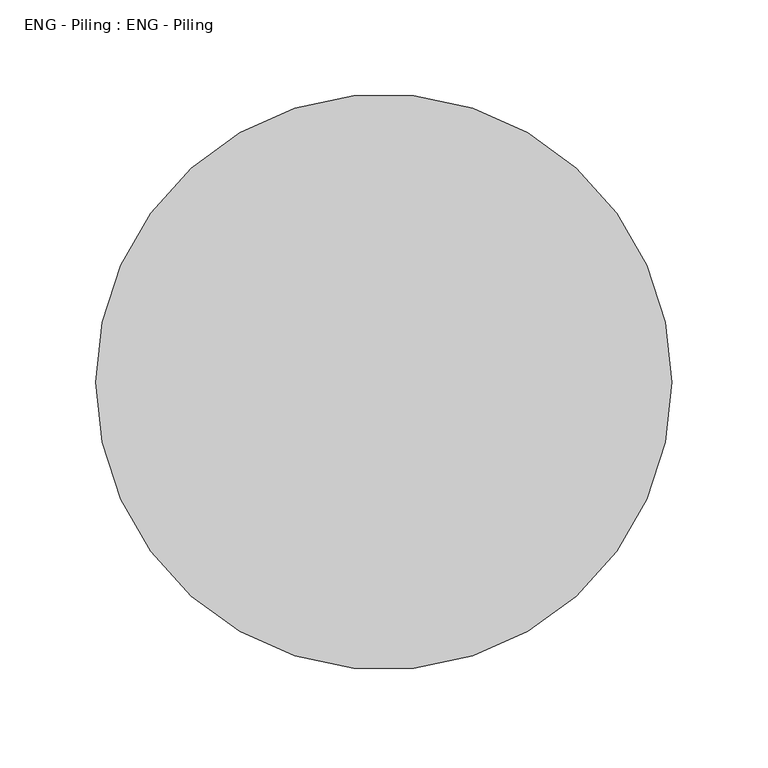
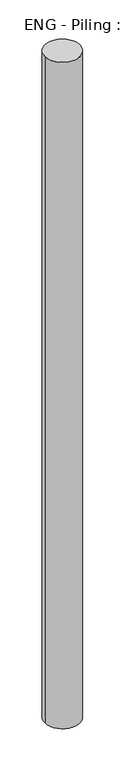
"""IFC4 building model written with IfcOpenShell, lengths in millimetres: column geometry, ENG - Piling : ENG - Piling."""

from ifc_helpers import new_model, si_unit, point, frame, origin, origin_2d, place, context, project, spatial, circle_curve, trimmed, segment, composite_curve, outline, extrude, source, transform, mapped, element, save


def eng_piling_eng_piling_70ba4476(model_context):
    return source(origin(), model_context, "Body", "SweptSolid", [
        extrude(outline(composite_curve([segment(trimmed(circle_curve(origin_2d(), 150.0), [point((-150.0, 0.0))], [point((150.0, 0.0))], False, "CARTESIAN"), True, "CONTINUOUS"), segment(trimmed(circle_curve(origin_2d(), 150.0), [point((150.0, 0.0))], [point((-150.0, 0.0))], False, "CARTESIAN"), True, "CONTINUOUS")], self_intersect=False)), frame((0.0, 0.0, -6000.0), z_axis=(0.0, 0.0, 1.0), x_axis=(1.0, 0.0, 0.0)), (0.0, 0.0, 1.0), 6000.0),
    ])


if __name__ == "__main__":
    model = new_model("IFC4")
    model_context = context("Model", 3, world=origin())
    ifc_project = project(units=[si_unit("LENGTHUNIT", "METRE", prefix="MILLI")], contexts=[model_context])
    site = spatial("IfcSite", under=ifc_project)
    building = spatial("IfcBuilding", under=site)
    placement = place(None, origin())
    eng_piling_eng_piling_shape = eng_piling_eng_piling_70ba4476(model_context)
    element("IfcColumn", 1, ObjectType="ENG - Piling : ENG - Piling", at=placement, inside=building, context=model_context, shape_type="MappedRepresentation", body=[
        mapped(eng_piling_eng_piling_shape, transform((0.0, 0.0, 0.0), x_axis=(1.0, 0.0, 0.0), y_axis=(0.0, 1.0, 0.0), z_axis=(0.0, 0.0, 1.0))),
    ])
    save(model, "model.ifc")
